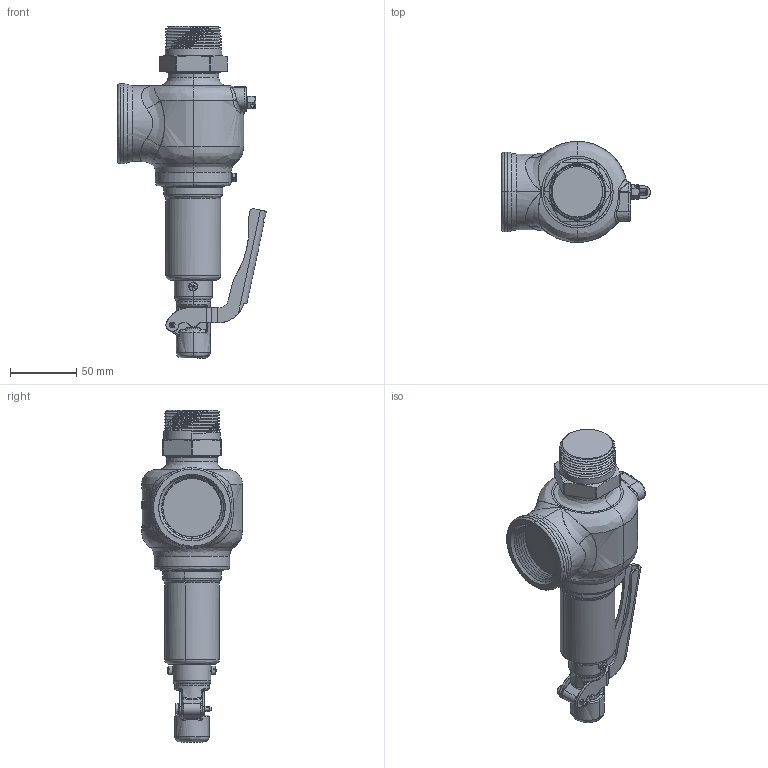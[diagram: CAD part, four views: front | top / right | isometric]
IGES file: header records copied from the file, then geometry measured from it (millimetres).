
Start section: SolidWorks IGES file using NURBS representation for surfaces
Global section: file name: C:\Design\Design\Aquatrol\Customer 3D Files\Series 740 Customer Files\F Orifice\Customer\Iges Files\Series 740 F 1250 x 1500 Open Lever.IGS; native system: SolidWorks 2015; preprocessor: SolidWorks 2015; author: Karl; date: 150515.102402; units: inch
Bounding box: 112.33 x 76.2 x 250.51 mm (x, y, z)
Surface area: 62451.6 mm2 (no closed solid volume)
Topology: 0 solids, 0 shells, 494 faces, 7943 edges, 7939 vertices
Faces by surface type: bspline 494
